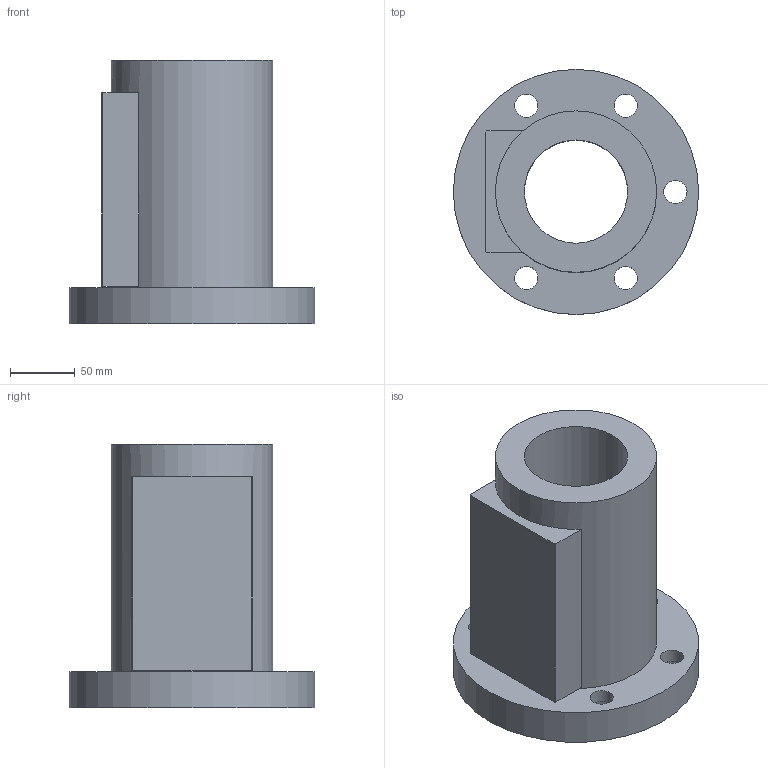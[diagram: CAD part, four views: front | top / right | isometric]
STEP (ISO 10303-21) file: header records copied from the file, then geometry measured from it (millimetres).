
FILE_DESCRIPTION(/* description */ (''),/* implementation_level */ '2;1');
FILE_NAME(/* name */ '80-16B3',/* time_stamp */ '2006-07-31T13:04:21+08:00',/* author */ (''),/* organization */ (''),/* preprocessor_version */ 'ST-DEVELOPER v9',/* originating_system */ 'UGS - NX 4.0',/* authorisation */ '');
FILE_SCHEMA (('CONFIG_CONTROL_DESIGN'));
Length unit declared in the file: millimetre
Products named in the file (1): 80-16B3
Bounding box: 190 x 190 x 204 mm (x, y, z)
Volume: 2066213.8 mm3; surface area: 200566.3 mm2
Topology: 1 solids, 1 shells, 28 faces, 61 edges, 42 vertices
Faces by surface type: plane 15, cylinder 13
Full cylindrical faces by diameter (mm): 18 x5, 26 x5, 80 x1, 125 x1, 190 x1
Entity records: 794 total; most frequent: DIRECTION 130, CARTESIAN_POINT 111, ORIENTED_EDGE 88, EDGE_LOOP 60, AXIS2_PLACEMENT_3D 57, FACE_BOUND 45, EDGE_CURVE 44, VERTEX_POINT 38
